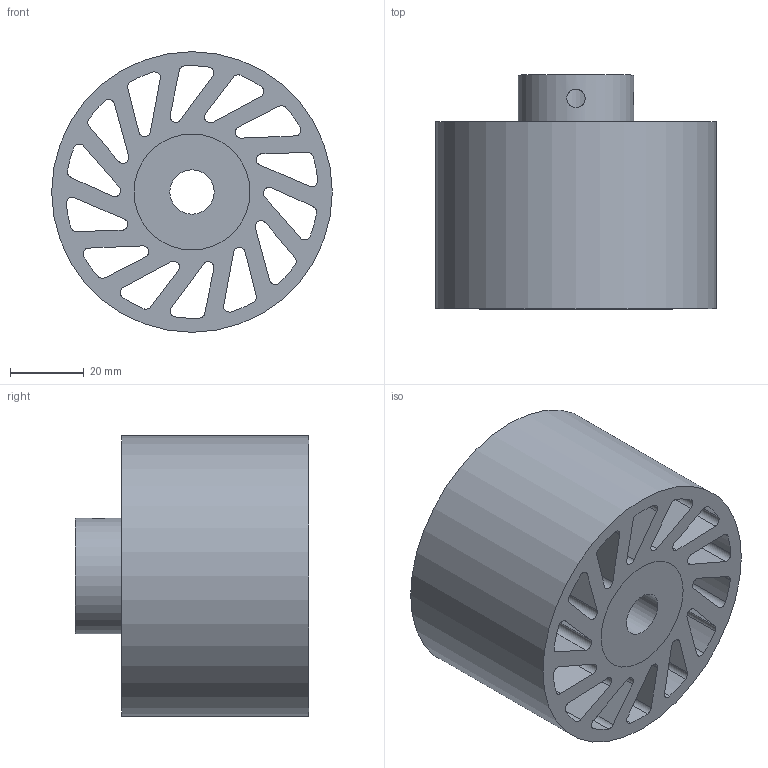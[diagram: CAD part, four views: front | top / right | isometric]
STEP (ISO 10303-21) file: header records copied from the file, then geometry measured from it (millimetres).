
FILE_DESCRIPTION(/* description */ (''),/* implementation_level */ '2;1');
FILE_NAME(/* name */ 'NCWM-690-XXX-YYY.stp',/* time_stamp */ '2023-02-02T16:18:33-06:00',/* author */ ('AG'),/* organization */ ('Meridian Laboratory'),/* preprocessor_version */ 'ST-DEVELOPER v18.1',/* originating_system */ 'Autodesk Inventor 2022',/* authorisation */ '');
FILE_SCHEMA (('AUTOMOTIVE_DESIGN { 1 0 10303 214 3 1 1 }'));
Length unit declared in the file: millimetre
Products named in the file (1): NCWM-640
Bounding box: 76.2 x 63.5 x 76.2 mm (x, y, z)
Volume: 163293.2 mm3; surface area: 62963.7 mm2
Topology: 2 solids, 2 shells, 94 faces, 274 edges, 184 vertices
Faces by surface type: cylinder 62, plane 32
Full cylindrical faces by diameter (mm): 5 x2, 12.025 x1, 31.496 x2, 76.2 x1
Entity records: 3510 total; most frequent: CARTESIAN_POINT 689, DIRECTION 576, ORIENTED_EDGE 548, EDGE_CURVE 274, AXIS2_PLACEMENT_3D 215, VERTEX_POINT 184, LINE 146, VECTOR 146
